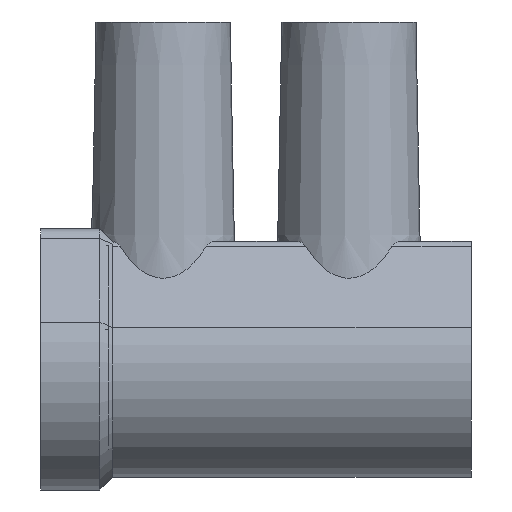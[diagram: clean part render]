
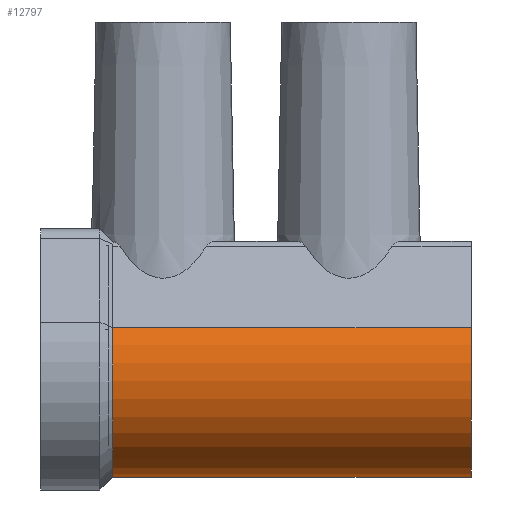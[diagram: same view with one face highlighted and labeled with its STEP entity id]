
A CAD part, left-side view. The second image highlights one B-rep face of the part: STEP entity #12797.
In plain terms, the highlighted cylindrical face has radius 6.25 mm (diameter 12.5 mm), a partial arc.
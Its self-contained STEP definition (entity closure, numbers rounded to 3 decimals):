
#1880=LINE('',#21647,#3030);
#1881=LINE('',#21649,#3031);
#1882=LINE('',#21653,#3032);
#1883=LINE('',#21657,#3033);
#3030=VECTOR('',#17567,1000.);
#3031=VECTOR('',#17570,1000.);
#3032=VECTOR('',#17573,1000.);
#3033=VECTOR('',#17576,1000.);
#6484=ORIENTED_EDGE('',*,*,#8425,.F.);
#6485=ORIENTED_EDGE('',*,*,#8432,.F.);
#6486=ORIENTED_EDGE('',*,*,#8429,.F.);
#6487=ORIENTED_EDGE('',*,*,#8433,.F.);
#6488=ORIENTED_EDGE('',*,*,#8434,.F.);
#6489=ORIENTED_EDGE('',*,*,#8435,.T.);
#6490=ORIENTED_EDGE('',*,*,#8436,.T.);
#6491=ORIENTED_EDGE('',*,*,#8437,.F.);
#8425=EDGE_CURVE('',#9676,#9677,#10156,.T.);
#8429=EDGE_CURVE('',#9679,#9678,#10157,.T.);
#8432=EDGE_CURVE('',#9678,#9676,#1880,.T.);
#8433=EDGE_CURVE('',#9680,#9679,#1881,.T.);
#8434=EDGE_CURVE('',#9681,#9680,#10158,.F.);
#8435=EDGE_CURVE('',#9681,#9682,#1882,.T.);
#8436=EDGE_CURVE('',#9682,#9683,#10159,.T.);
#8437=EDGE_CURVE('',#9677,#9683,#1883,.T.);
#9676=VERTEX_POINT('',#21632);
#9677=VERTEX_POINT('',#21634);
#9678=VERTEX_POINT('',#21638);
#9679=VERTEX_POINT('',#21640);
#9680=VERTEX_POINT('',#21650);
#9681=VERTEX_POINT('',#21652);
#9682=VERTEX_POINT('',#21654);
#9683=VERTEX_POINT('',#21656);
#10156=CIRCLE('',#14034,6.25);
#10157=CIRCLE('',#14036,6.25);
#10158=CIRCLE('',#14041,6.25);
#10159=CIRCLE('',#14042,6.25);
#11004=EDGE_LOOP('',(#6484,#6485,#6486,#6487,#6488,#6489,#6490,#6491));
#11882=FACE_BOUND('',#11004,.T.);
#12111=CYLINDRICAL_SURFACE('',#14040,6.25);
#12797=ADVANCED_FACE('',(#11882),#12111,.T.);
#14034=AXIS2_PLACEMENT_3D('',#21633,#17550,#17551);
#14036=AXIS2_PLACEMENT_3D('',#21641,#17557,#17558);
#14040=AXIS2_PLACEMENT_3D('',#21648,#17568,#17569);
#14041=AXIS2_PLACEMENT_3D('',#21651,#17571,#17572);
#14042=AXIS2_PLACEMENT_3D('',#21655,#17574,#17575);
#17550=DIRECTION('',(0.,-1.,0.));
#17551=DIRECTION('',(0.,0.,-1.));
#17557=DIRECTION('',(0.,1.,0.));
#17558=DIRECTION('',(0.,0.,1.));
#17567=DIRECTION('',(0.,1.,0.));
#17568=DIRECTION('',(0.,1.,0.));
#17569=DIRECTION('',(0.,0.,1.));
#17570=DIRECTION('',(0.,1.,0.));
#17571=DIRECTION('',(0.,1.,0.));
#17572=DIRECTION('',(0.,0.,1.));
#17573=DIRECTION('',(0.,1.,0.));
#17574=DIRECTION('',(0.,-1.,0.));
#17575=DIRECTION('',(-0.906,0.,0.424));
#17576=DIRECTION('',(0.,1.,0.));
#21632=CARTESIAN_POINT('',(-162.1,3.,-5.552));
#21633=CARTESIAN_POINT('',(-166.1,3.,-0.75));
#21634=CARTESIAN_POINT('',(-160.44,3.,1.9));
#21638=CARTESIAN_POINT('',(-162.1,-3.,-5.552));
#21640=CARTESIAN_POINT('',(-160.44,-3.,1.9));
#21641=CARTESIAN_POINT('',(-166.1,-3.,-0.75));
#21647=CARTESIAN_POINT('',(-162.1,-44.851,-5.552));
#21648=CARTESIAN_POINT('',(-166.1,-44.851,-0.75));
#21649=CARTESIAN_POINT('',(-160.44,-44.851,1.9));
#21650=CARTESIAN_POINT('',(-160.44,-12.75,1.9));
#21651=CARTESIAN_POINT('',(-166.1,-12.75,-0.75));
#21652=CARTESIAN_POINT('',(-171.76,-12.75,1.9));
#21653=CARTESIAN_POINT('',(-171.76,-44.851,1.9));
#21654=CARTESIAN_POINT('',(-171.76,8.5,1.9));
#21655=CARTESIAN_POINT('',(-166.1,8.5,-0.75));
#21656=CARTESIAN_POINT('',(-160.44,8.5,1.9));
#21657=CARTESIAN_POINT('',(-160.44,-44.851,1.9));
